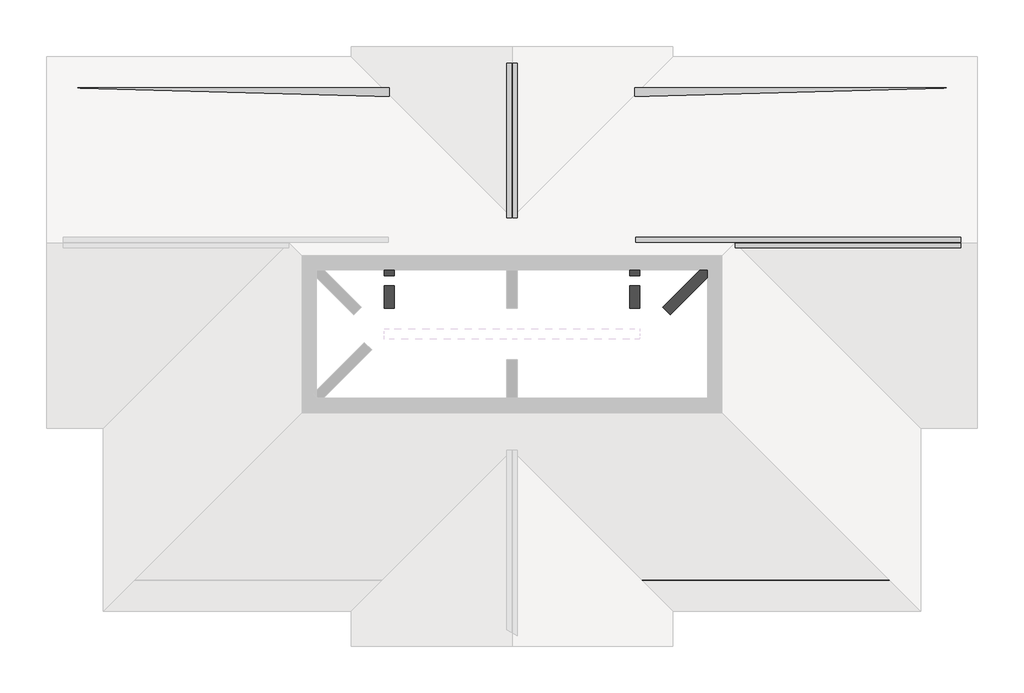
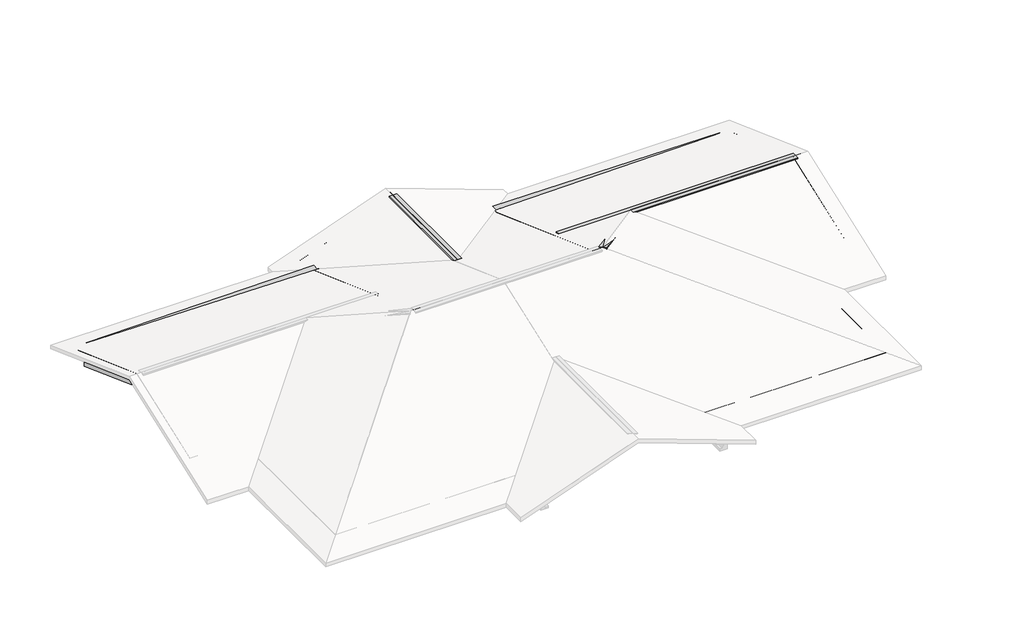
# One storey, part 2 of 2: 17 beams.
"""IFC4 building model written with IfcOpenShell, lengths in millimetres."""

import ifcopenshell
import ifcopenshell.guid

model = None  # the IFC model being written
_history = None  # IfcOwnerHistory: only IFC2X3 demands one
_inside = {}  # id of a spatial element -> (the spatial element, [elements in it])
_under = {}  # id of a project, library or spatial element -> (it, [spatial elements below it])
_declared = {}  # id of a project -> (the project, [libraries it declares])
_typed = {}  # id of a type object -> (the type object, [elements of that type])
_made_of = {}  # id of a material, layer set ... -> (it, [elements and type objects made of it])


def new_model(schema):
    """Start an empty IFC model of exactly this schema.

    Asked for "IFC4X3", IfcOpenShell would pick the latest addendum, in which some entities
    have other attributes; the version numbers below select the first issue.
    IFC2X3 requires an IfcOwnerHistory on every rooted entity: one is made here for all.
    """
    global model, _history
    if schema == "IFC4X3":
        model = ifcopenshell.file(schema_version=(4, 3, 0, 0))
    else:
        model = ifcopenshell.file(schema=schema)
    _inside.clear()
    _under.clear()
    _declared.clear()
    _typed.clear()
    _made_of.clear()
    _history = None
    if model.schema == "IFC2X3":
        org = make("IfcOrganization", Name="unknown")
        user = make(
            "IfcPersonAndOrganization",
            ThePerson=make("IfcPerson", FamilyName="unknown"),
            TheOrganization=org,
        )
        app = make(
            "IfcApplication",
            ApplicationDeveloper=org,
            Version="unknown",
            ApplicationFullName="unknown",
            ApplicationIdentifier="unknown",
        )
        _history = make(
            "IfcOwnerHistory",
            OwningUser=user,
            OwningApplication=app,
            ChangeAction="ADDED",
            CreationDate=0,
        )
    return model


def make(cls, **values):
    """One entity of the class cls with the attributes given. An attribute that is None is left unset."""
    return model.create_entity(
        cls, **{name: value for name, value in values.items() if value is not None}
    )


def rooted(cls, **values):
    """An entity with a GlobalId (a new one), such as an element, a storey or a relation."""
    return make(cls, GlobalId=ifcopenshell.guid.new(), OwnerHistory=_history, **values)


def si_unit(unit_type, name, prefix=None):
    """IfcSIUnit, for example si_unit("LENGTHUNIT", "METRE", prefix="MILLI")."""
    return make("IfcSIUnit", UnitType=unit_type, Prefix=prefix, Name=name)


def assignment(units):
    """IfcUnitAssignment: the units of a project."""
    return None if units is None else make("IfcUnitAssignment", Units=units)


def point(xyz):
    """IfcCartesianPoint."""
    return None if xyz is None else make("IfcCartesianPoint", Coordinates=xyz)


def direction(xyz):
    """IfcDirection."""
    return None if xyz is None else make("IfcDirection", DirectionRatios=xyz)


def frame(location, z_axis=None, x_axis=None):
    """IfcAxis2Placement3D, a coordinate frame: its origin and axes. An axis left out is left unset."""
    return make(
        "IfcAxis2Placement3D",
        Location=point(location),
        Axis=direction(z_axis),
        RefDirection=direction(x_axis),
    )


def origin():
    """The frame at (0, 0, 0) with its axes left unset."""
    return frame((0.0, 0.0, 0.0))


def place(relative_to, where):
    """IfcLocalPlacement: puts the frame where relative to a parent placement (None: the world)."""
    return make(
        "IfcLocalPlacement", PlacementRelTo=relative_to, RelativePlacement=where
    )


def context(
    kind, dimensions, precision=None, world=None, true_north=None, identifier=None
):
    """IfcGeometricRepresentationContext, for example the 3D "Model" context."""
    return make(
        "IfcGeometricRepresentationContext",
        ContextIdentifier=identifier,
        ContextType=kind,
        CoordinateSpaceDimension=dimensions,
        Precision=precision,
        WorldCoordinateSystem=world,
        TrueNorth=true_north,
    )


def project(units=None, contexts=None):
    """IfcProject with its units and contexts."""
    return rooted(
        "IfcProject",
        Name="project",
        RepresentationContexts=contexts,
        UnitsInContext=assignment(units),
    )


def spatial(cls, under=None, at=None, **own):
    """A site, building, storey or space (cls), placed at a placement, below another one or the project."""
    s = rooted(cls, ObjectPlacement=at, **own)
    if under is not None:
        _under.setdefault(under.id(), (under, []))[1].append(s)
    return s


def faces_of(points, faces, orient=None, outer=None):
    """IfcFace entities. A face is a list of loops; a loop is a list of indices into points, from 0.

    orient and outer hold one flag for each loop. By default every Orientation is true, the
    first loop of a face is its IfcFaceOuterBound and the others are IfcFaceBound.
    """
    made = []
    for i, loops in enumerate(faces):
        bounds = []
        for j, loop in enumerate(loops):
            is_outer = j == 0 if outer is None else outer[i][j]
            bounds.append(
                make(
                    "IfcFaceOuterBound" if is_outer else "IfcFaceBound",
                    Bound=make("IfcPolyLoop", Polygon=[points[k] for k in loop]),
                    Orientation=True if orient is None else orient[i][j],
                )
            )
        made.append(make("IfcFace", Bounds=bounds))
    return made


def faceted_brep(points, faces, orient=None, outer=None, voids=None):
    """IfcFacetedBrep: a solid bounded by flat faces; with voids (closed shells), ...WithVoids."""
    shared = [point(p) for p in points]
    hull = make("IfcClosedShell", CfsFaces=faces_of(shared, faces, orient, outer))
    if voids is None:
        return make("IfcFacetedBrep", Outer=hull)
    return make(
        "IfcFacetedBrepWithVoids",
        Outer=hull,
        Voids=[
            make(cls, CfsFaces=faces_of(shared, fs, o, b)) for cls, fs, o, b in voids
        ],
    )


def shape(context_of_items, identifier, shape_type, items):
    """IfcShapeRepresentation: the items that make up one representation, for example the "Body"."""
    return make(
        "IfcShapeRepresentation",
        ContextOfItems=context_of_items,
        RepresentationIdentifier=identifier,
        RepresentationType=shape_type,
        Items=items,
    )


def made_of(thing, what):
    """Note that an element or type object is made of a material, layer set ...; save() writes the relation."""
    if what is not None:
        _made_of.setdefault(what.id(), (what, []))[1].append(thing)
    return thing


def element(
    cls,
    number,
    at=None,
    inside=None,
    cuts=None,
    type_object=None,
    material=None,
    context=None,
    identifier="Body",
    shape_type=None,
    held_by="IfcProductDefinitionShape",
    body=None,
    shapes=None,
    **own,
):
    """One element of the class cls, such as IfcWall. Its Tag is "e" and its number.

    at: its placement. inside: the storey or other place that contains it. cuts: it is an
    opening in that element (IfcRelVoidsElement). A single representation is given by context,
    identifier, shape_type and body (its items); several are given by shapes. held_by: the class
    of the entity that holds the representations. save() writes the other relations.
    """
    e = rooted(cls, Tag="e%d" % number, ObjectPlacement=at, **own)
    if body is not None:
        shapes = [shape(context, identifier, shape_type, body)]
    if shapes is not None:
        e.Representation = make(held_by, Representations=shapes)
    if inside is not None:
        _inside.setdefault(inside.id(), (inside, []))[1].append(e)
    if cuts is not None:
        rooted(
            "IfcRelVoidsElement", RelatingBuildingElement=cuts, RelatedOpeningElement=e
        )
    if type_object is not None:
        _typed.setdefault(type_object.id(), (type_object, []))[1].append(e)
    return made_of(e, material)


def aggregate(whole, parts):
    """IfcRelAggregates: a whole, such as a stair, and the parts it consists of."""
    return rooted("IfcRelAggregates", RelatingObject=whole, RelatedObjects=parts)


def save(model, path):
    """Write the relations noted so far, then the file.

    IfcRelAggregates (storeys below a building ...), IfcRelContainedInSpatialStructure (elements
    in a storey), IfcRelDefinesByType, IfcRelAssociatesMaterial and IfcRelDeclares: one each for
    every whole, place, type object, material and project.
    """
    for whole, parts in _under.values():
        aggregate(whole, parts)
    for where, things in _inside.values():
        rooted(
            "IfcRelContainedInSpatialStructure",
            RelatedElements=things,
            RelatingStructure=where,
        )
    for kind, things in _typed.values():
        rooted("IfcRelDefinesByType", RelatedObjects=things, RelatingType=kind)
    for what, things in _made_of.values():
        rooted("IfcRelAssociatesMaterial", RelatedObjects=things, RelatingMaterial=what)
    for by, libraries in _declared.values():
        rooted("IfcRelDeclares", RelatingContext=by, RelatedDefinitions=libraries)
    model.write(path)


model = new_model("IFC4")

# Units and contexts
model_context = context("Model", 3, world=origin())
ifc_project = project(units=[si_unit("LENGTHUNIT", "METRE", prefix="MILLI")], contexts=[model_context])

# Site, building, storey
site = spatial("IfcSite", under=ifc_project)
building = spatial("IfcBuilding", under=site)
storey = spatial("IfcBuildingStorey", under=building, Name="屋顶", Elevation=7000.0)

# Beams
placement = place(None, origin())
element("IfcBeam", 1, ObjectType="混凝土 - 矩形梁 : 200X400", at=placement, inside=storey, context=model_context, shape_type="Brep", body=[
    faceted_brep([(-13444.5197818, -153.9538269, 8110.7726853), (-13244.5197818, -153.9538269, 8110.7726853), (-13244.5197818, -53.9538269, 8074.3756619), (-13244.5197818, 2538.4266131, 7130.8263459), (-13444.5197818, 2538.4266131, 7130.8263459), (-13444.5197818, -273.6608771, 7781.8802681), (-13444.5197818, 2246.0461731, 7130.8263459), (-13444.5197818, 2246.0461731, 6864.7819027), (-13444.5197818, -153.9538269, 7738.310465), (-13244.5197818, -273.6608771, 7781.8802681), (-13244.5197818, 2246.0461731, 6864.7819027), (-13244.5197818, -153.9538269, 7738.310465), (-13244.5197818, 2246.0461731, 7130.8263459)], [[[0, 1, 2, 3, 4]], [[5, 0, 4, 6, 7, 8]], [[9, 5, 8, 7, 10, 11]], [[1, 9, 11, 10, 12, 3, 2]], [[6, 12, 10, 7]], [[12, 6, 4, 3]], [[1, 0, 5, 9]]]),
])
element("IfcBeam", 2, ObjectType="混凝土 - 矩形梁 : 200X400", at=placement, inside=storey, context=model_context, shape_type="Brep", body=[
    faceted_brep([(-6904.5197818, -1923.9538269, 8755.0), (-7104.5197818, -1923.9538269, 8755.0), (-7104.5197818, -2023.9538269, 8480.2522581), (-7104.5197818, -2043.6608771, 8426.1075827), (-6904.5197818, -2043.6608771, 8426.1075827), (-6904.5197818, -2023.9538269, 8480.2522581), (-6904.5197818, -1823.9538269, 8718.6029766), (-6904.5197818, 2507.0984092, 7142.2288796), (-7004.5197818, 2798.3249579, 7036.2310844), (-7020.9060678, 2846.0461731, 7018.8619826), (-7038.8922165, 2898.4266131, 6999.7970615), (-7104.5197818, 2898.4266131, 6999.7970615), (-7104.5197818, 2846.0461731, 7018.8619826), (-7104.5197818, 2676.5602627, 7080.549809), (-7104.5197818, -53.9538269, 8074.3756619), (-7024.5197818, -53.9538269, 8074.3756619), (-7024.5197818, -154.5783688, 8111.0), (-7104.5197818, -154.5783688, 8111.0), (-7104.5197818, -1823.9538269, 8718.6029766), (-7104.5197818, -1852.5324707, 8729.0047522), (-7104.5197818, -1863.6709351, 8733.0588217), (-7104.5197818, -253.9538269, 8111.0), (-7104.5197818, -253.9538269, 7774.7074884), (-7104.5197818, -793.9538269, 7971.2514149), (-7104.5197818, -793.9538269, 8310.0899049), (-7104.5197818, -993.9538269, 8310.0899049), (-7104.5197818, -993.9538269, 8044.0454618), (-7104.5197818, -1893.024185, 8371.2803106), (-7104.5197818, -1985.6682702, 8405.0), (-7104.5197818, -2023.9538269, 8418.9348031), (-6904.5197818, -993.9538269, 8044.0454618), (-6904.5197818, -1985.6682702, 8405.0), (-6904.5197818, -2023.9538269, 8418.9348031), (-6904.5197818, -993.9538269, 8310.0899049), (-6904.5197818, -793.9538269, 8310.0899049), (-6904.5197818, -793.9538269, 8237.295858), (-6904.5197818, -793.9538269, 7971.2514149), (-6904.5197818, 2387.3913591, 6813.3364623), (-6944.9082416, 2505.0132767, 6770.5255854), (-6979.6004415, 2606.0461731, 6733.7526184), (-6951.1771755, 2606.0461731, 6991.3061103), (-6950.2401252, 2606.0461731, 6999.7970615), (-7004.5197818, 2785.064058, 6999.7970615), (-7023.0100475, 2846.0461731, 6999.7970615), (-7104.5197818, 2606.0461731, 6733.7526184), (-7104.5197818, 2606.0461731, 6999.7970615), (-7045.941138, 2606.0461731, 6733.7526184), (-7104.5197818, 2646.0461731, 6999.7970615), (-7104.5197818, 2846.0461731, 6999.7970615), (-7024.5197818, -253.9538269, 7774.7074884), (-7024.5197818, -216.292812, 7761.0), (-7104.5197818, -216.292812, 7761.0), (-7024.5197818, -53.9538269, 7761.0), (-7024.5197818, -253.9538269, 8111.0), (-7104.5197818, -53.9538269, 7761.0)], [[[0, 1, 2, 3, 4, 5]], [[1, 0, 6, 7, 8, 9, 10, 11, 12, 13, 14, 15, 16, 17, 18, 19, 20]], [[3, 2, 1, 20, 19, 18, 17, 21, 22, 23, 24, 25, 26, 27, 28, 29]], [[4, 3, 29, 28, 27, 26, 30, 31, 32]], [[0, 5, 4, 32, 31, 30, 33, 34, 35, 36, 37, 7, 6]], [[7, 37, 38, 39, 40, 41, 42, 43, 10, 9, 8]], [[44, 45, 41, 40, 39, 46]], [[11, 10, 43, 42, 41, 45, 47, 48]], [[34, 24, 23, 36, 35]], [[25, 33, 30, 26]], [[24, 34, 33, 25]], [[44, 46, 39, 38, 37, 36, 23, 22, 49, 50, 51]], [[15, 52, 50, 49, 53, 16]], [[16, 53, 21, 17]], [[53, 49, 22, 21]], [[50, 52, 54, 51]], [[52, 15, 14, 54]], [[45, 44, 51, 54, 14, 13, 12, 11, 48, 47]]]),
])
element("IfcBeam", 3, ObjectType="混凝土 - 矩形梁 : 200X400", at=placement, inside=storey, context=model_context, shape_type="Brep", body=[
    faceted_brep([(-7142.8960055, 3246.0461731, 7019.4529888), (-4624.5197818, 3246.0461731, 7936.0669729), (-4624.5197818, 3446.0461731, 7936.0669729), (-7142.8960055, 3446.0461731, 7019.4529888), (-4504.8127316, 3446.0461731, 7607.1745556), (-4624.5197818, 3446.0461731, 7563.6047525), (-6904.5197818, 3446.0461731, 6733.7526184), (-6904.5197818, 3446.0461731, 6999.7970615), (-7142.8960055, 3446.0461731, 6999.7970615), (-4504.8127316, 3246.0461731, 7607.1745556), (-4624.5197818, 3246.0461731, 7563.6047525), (-6904.5197818, 3246.0461731, 6733.7526184), (-7142.8960055, 3246.0461731, 6999.7970615), (-6904.5197818, 3246.0461731, 6999.7970615)], [[[0, 1, 2, 3]], [[3, 2, 4, 5, 6, 7, 8]], [[4, 9, 10, 11, 6, 5]], [[1, 0, 12, 13, 11, 10, 9]], [[13, 7, 6, 11]], [[7, 13, 12, 8]], [[0, 3, 8, 12]], [[1, 9, 4, 2]]]),
])
element("IfcBeam", 4, ObjectType="混凝土 - 矩形梁 : 200X400", at=placement, inside=storey, context=model_context, shape_type="Brep", body=[
    faceted_brep([(-4624.5197818, 467.4675293, 7803.9126136), (-4724.5197818, 567.4675293, 7767.5155901), (-6904.5197818, 2747.4675293, 6974.0604794), (-6904.5197818, 2606.0461731, 6999.7970615), (-6951.1771755, 2606.0461731, 6991.3061103), (-6904.5197818, 2464.6248168, 7025.5336436), (-4723.4675456, 283.5725807, 7819.3717369), (-4624.5197818, 184.6248168, 7855.3857777), (-4624.5197818, 326.0461731, 7829.6491957), (-7045.941138, 2606.0461731, 6612.6548171), (-4624.5197818, 184.6248168, 7493.9801154), (-6944.9082416, 2505.0132767, 6770.5255854), (-7045.941138, 2606.0461731, 6733.7526184), (-6904.5197818, 2606.0461731, 6638.3913991), (-6904.5197818, 2747.4675293, 6612.6548171), (-4624.5197818, 467.4675293, 7442.5069512), (-4624.5197818, 467.4675293, 7586.0), (-6979.6004415, 2606.0461731, 6733.7526184)], [[[0, 1, 2, 3, 4, 5, 6, 7, 8]], [[9, 10, 7, 6, 5, 11, 12]], [[10, 9, 13, 14, 15]], [[2, 1, 0, 16, 15, 14]], [[13, 3, 2, 14]], [[3, 13, 9, 12, 17, 4]], [[11, 17, 12]], [[17, 11, 5, 4]], [[0, 8, 7, 10, 15, 16]]]),
    faceted_brep([(-7156.7711082, 2716.8761433, 6572.3160068), (-7156.7711082, 2716.8761433, 6730.0156304), (-7156.7711082, 2716.8761433, 6933.7216692), (-7144.5197818, 2729.1274697, 6933.7216692), (-7144.5197818, 2729.1274697, 6730.1368612), (-7144.5197818, 2729.1274697, 6572.3160068), (-7144.5197818, 2704.6248168, 6938.1807874), (-7144.5197818, 2704.6248168, 6730.1368612), (-7144.5197818, 2704.6248168, 6576.775125)], [[[0, 1, 2, 3, 4, 5]], [[3, 6, 7, 8, 5, 4]], [[3, 2, 6]], [[2, 1, 0, 8, 7, 6]], [[8, 0, 5]]]),
])
element("IfcBeam", 5, ObjectType="混凝土 - 矩形梁 : 200X400", at=placement, inside=storey, context=model_context, shape_type="Brep", body=[
    faceted_brep([(-4524.5197818, 326.0461731, 7936.0), (-4724.5197818, 326.0461731, 7936.0), (-4724.5197818, 326.0461731, 7811.4506839), (-4624.5197818, 326.0461731, 7829.6491957), (-4624.5197818, 326.0461731, 7586.0), (-4524.5197818, 326.0461731, 7586.0), (-4524.5197818, 326.0461731, 7811.4506839), (-4524.5197818, 3326.0461731, 7936.0), (-4524.5197818, 3326.0461731, 7586.0), (-4724.5197818, 3326.0461731, 7586.0), (-4724.5197818, 3326.0461731, 7936.0), (-4724.5197818, 567.4675293, 7586.0), (-4724.5197818, 567.4675293, 7767.5155901), (-4524.5197818, 567.4675293, 7586.0), (-4624.5197818, 467.4675293, 7586.0), (-4624.5197818, 467.4675293, 7803.9126136)], [[[0, 1, 2, 3, 4, 5, 6]], [[7, 8, 9, 10]], [[1, 0, 7, 10]], [[10, 9, 11, 12, 2, 1]], [[9, 8, 13, 5, 4, 14, 11]], [[0, 6, 5, 13, 8, 7]], [[12, 15, 3, 2]], [[15, 12, 11, 14]], [[3, 15, 14, 4]]]),
])
element("IfcBeam", 6, ObjectType="混凝土 - 矩形梁 : 200X400", at=placement, inside=storey, context=model_context, shape_type="Brep", body=[
    faceted_brep([(-4624.5197818, 184.6248168, 7855.3857777), (-4525.5720179, 283.5725807, 7819.3717369), (-2344.5197818, 2464.6248168, 7025.5336436), (-2203.0984255, 2606.0461731, 6974.0604794), (-2297.8623881, 2606.0461731, 6991.3061103), (-2344.5197818, 2606.0461731, 6999.7970615), (-2344.5197818, 2747.4675293, 6974.0604794), (-4524.5197818, 567.4675293, 7767.5155901), (-4524.5197818, 326.0461731, 7811.4506839), (-4624.5197818, 326.0461731, 7829.6491957), (-4624.5197818, 184.6248168, 7493.9801154), (-2203.0984255, 2606.0461731, 6612.6548171), (-2203.0984255, 2606.0461731, 6733.7526184), (-4624.5197818, 467.4675293, 7442.5069512), (-2344.5197818, 2747.4675293, 6612.6548171), (-2344.5197818, 2606.0461731, 6638.3913991), (-4624.5197818, 467.4675293, 7586.0), (-4524.5197818, 567.4675293, 7586.0), (-4624.5197818, 326.0461731, 7586.0), (-4524.5197818, 326.0461731, 7586.0)], [[[0, 1, 2, 3, 4, 5, 6, 7, 8, 9]], [[0, 10, 11, 12, 3, 2, 1]], [[10, 13, 14, 15, 11]], [[14, 13, 16, 17, 7, 6]], [[13, 10, 0, 9, 18, 16]], [[5, 15, 14, 6]], [[15, 5, 4, 3, 12, 11]], [[8, 19, 18, 9]], [[18, 19, 17, 16]], [[19, 8, 7, 17]]]),
    faceted_brep([(-2092.2684553, 2716.8761433, 6933.7216692), (-2092.2684553, 2716.8761433, 6730.0156304), (-2092.2684553, 2716.8761433, 6572.3160068), (-2104.5197818, 2729.1274697, 6572.3160068), (-2104.5197818, 2729.1274697, 6730.1368612), (-2104.5197818, 2729.1274697, 6933.7216692), (-2104.5197818, 2704.6248168, 6938.1807874), (-2104.5197818, 2704.6248168, 6576.775125), (-2104.5197818, 2704.6248168, 6730.1368612)], [[[0, 1, 2, 3, 4, 5]], [[6, 5, 4, 3, 7, 8]], [[0, 5, 6]], [[2, 1, 0, 6, 8, 7]], [[3, 2, 7]]]),
])
element("IfcBeam", 7, ObjectType="混凝土 - 矩形梁 : 200X400", at=placement, inside=storey, context=model_context, shape_type="Brep", body=[
    faceted_brep([(3995.4802182, -153.9538269, 8110.7726853), (4195.4802182, -153.9538269, 8110.7726853), (4195.4802182, 2538.4266131, 7130.8263459), (3995.4802182, 2538.4266131, 7130.8263459), (3995.4802182, -53.9538269, 8074.3756619), (4195.4802182, -273.6608771, 7781.8802681), (4195.4802182, -153.9538269, 7738.310465), (4195.4802182, 2246.0461731, 6864.7819027), (4195.4802182, 2246.0461731, 7130.8263459), (3995.4802182, -273.6608771, 7781.8802681), (3995.4802182, -153.9538269, 7738.310465), (3995.4802182, 2246.0461731, 6864.7819027), (3995.4802182, 2246.0461731, 7130.8263459)], [[[0, 1, 2, 3, 4]], [[1, 5, 6, 7, 8, 2]], [[5, 9, 10, 11, 7, 6]], [[9, 0, 4, 3, 12, 11, 10]], [[0, 9, 5, 1]], [[12, 8, 7, 11]], [[8, 12, 3, 2]]]),
])
element("IfcBeam", 8, ObjectType="混凝土 - 矩形梁 : 200X400", at=placement, inside=storey, context=model_context, shape_type="Brep", body=[
    faceted_brep([(4195.4802182, -2604.7602856, 7218.7520845), (3995.4802182, -2604.7602856, 7218.7520845), (3995.4802182, -2583.3558804, 7159.9439646), (4195.4802182, -2583.3558804, 7159.9439646), (4195.4802182, -153.9538269, 8110.7726853), (3995.4802182, -153.9538269, 8110.7726853), (3995.4802182, -253.9538269, 8074.3756619), (4195.4802182, -2473.9538269, 7159.9439646), (4195.4802182, -2473.9538269, 6893.8995215), (4195.4802182, -153.9538269, 7738.310465), (4195.4802182, -273.6608771, 7781.8802681), (3995.4802182, -153.9538269, 7738.310465), (3995.4802182, -2473.9538269, 6893.8995215), (3995.4802182, -273.6608771, 7781.8802681), (3995.4802182, -2473.9538269, 7159.9439646)], [[[0, 1, 2, 3]], [[1, 0, 4, 5, 6]], [[4, 0, 3, 7, 8, 9, 10]], [[11, 9, 8, 12]], [[1, 6, 5, 13, 11, 12, 14, 2]], [[10, 9, 11, 13]], [[10, 13, 5, 4]], [[7, 14, 12, 8]], [[14, 7, 3, 2]]]),
])
element("IfcBeam", 9, ObjectType="混凝土 - 矩形梁 : 200X400", at=placement, inside=storey, context=model_context, shape_type="Brep", body=[
    faceted_brep([(-2224.5197818, -253.9538269, 8111.0), (-2224.5197818, -154.5783688, 8111.0), (-2224.5197818, -53.9538269, 8111.0), (-2224.5197818, -53.9538269, 8074.3756619), (-2224.5197818, -53.9538269, 7761.0), (-2224.5197818, -216.292812, 7761.0), (-2224.5197818, -253.9538269, 7761.0), (-2224.5197818, -253.9538269, 7774.7074884), (-2144.5197818, -253.9538269, 8111.0), (4075.4802182, -253.9538269, 8111.0), (4075.4802182, -53.9538269, 8111.0), (-545.941138, -253.9538269, 7761.0), (-347.0095507, -253.9538269, 7761.0), (-345.941138, -253.9538269, 7761.0), (-63.0984255, -253.9538269, 7761.0), (3995.4802182, -253.9538269, 7761.0), (3995.4802182, -253.9538269, 8074.3756619), (4075.4802182, -253.9538269, 8074.3756619), (-2144.5197818, -53.9538269, 7761.0), (-293.0937247, -53.9538269, 7761.0), (-263.0984255, -53.9538269, 7761.0), (3995.4802182, -53.9538269, 7761.0), (4075.4802182, -53.9538269, 8074.3756619), (3995.4802182, -53.9538269, 8074.3756619), (3995.4802182, -153.9538269, 8110.7726853), (4075.4802182, -153.9538269, 8110.7726853)], [[[0, 1, 2, 3, 4, 5, 6, 7]], [[2, 1, 0, 8, 9, 10]], [[0, 7, 6, 11, 12, 13, 14, 15, 16, 17, 9, 8]], [[6, 5, 4, 18, 19, 20, 21, 15, 14, 13, 12, 11]], [[4, 3, 2, 10, 22, 23, 21, 20, 19, 18]], [[24, 23, 22, 25]], [[23, 24, 16, 15, 21]], [[10, 9, 17, 25, 22]], [[16, 24, 25, 17]]]),
])
element("IfcBeam", 10, ObjectType="混凝土 - 矩形梁 : 200X400", at=placement, inside=storey, context=model_context, shape_type="Brep", body=[
    faceted_brep([(-2144.5197818, -1923.9538269, 8755.0), (-2344.5197818, -1923.9538269, 8755.0), (-2344.5197818, -2023.9538269, 8480.2522581), (-2344.5197818, -2043.6608771, 8426.1075827), (-2144.5197818, -2043.6608771, 8426.1075827), (-2144.5197818, -2023.9538269, 8480.2522581), (-2144.5197818, -1863.6709351, 8733.0588217), (-2144.5197818, -1852.5324707, 8729.0047522), (-2144.5197818, -1823.9538269, 8718.6029766), (-2144.5197818, -154.5783688, 8111.0), (-2224.5197818, -154.5783688, 8111.0), (-2224.5197818, -53.9538269, 8074.3756619), (-2144.5197818, -53.9538269, 8074.3756619), (-2144.5197818, 2676.5602627, 7080.549809), (-2144.5197818, 2846.0461731, 7018.8619826), (-2144.5197818, 2898.4266131, 6999.7970615), (-2210.1473471, 2898.4266131, 6999.7970615), (-2228.1334958, 2846.0461731, 7018.8619826), (-2244.777399, 2797.574708, 7036.504153), (-2344.5197818, 2507.0984092, 7142.2288796), (-2344.5197818, -1823.9538269, 8718.6029766), (-2144.5197818, -2023.9538269, 8418.9348031), (-2144.5197818, -1985.6682702, 8405.0), (-2144.5197818, -1893.024185, 8371.2803106), (-2144.5197818, -993.9538269, 8044.0454618), (-2144.5197818, -993.9538269, 8310.0899049), (-2144.5197818, -793.9538269, 8310.0899049), (-2144.5197818, -793.9538269, 7971.2514149), (-2144.5197818, -253.9538269, 7774.7074884), (-2144.5197818, -253.9538269, 8111.0), (-2344.5197818, -2023.9538269, 8418.9348031), (-2344.5197818, -1985.6682702, 8405.0), (-2344.5197818, -993.9538269, 8044.0454618), (-2344.5197818, 2464.6248168, 7025.5336436), (-2344.5197818, 2387.3913591, 6813.3364623), (-2344.5197818, -793.9538269, 7971.2514149), (-2344.5197818, -793.9538269, 8237.295858), (-2344.5197818, -793.9538269, 8310.0899049), (-2344.5197818, -993.9538269, 8310.0899049), (-2224.5197818, -53.9538269, 7761.0), (-2224.5197818, -253.9538269, 8111.0), (-2224.5197818, -253.9538269, 7774.7074884), (-2224.5197818, -216.292812, 7761.0), (-2144.5197818, -216.292812, 7761.0), (-2144.5197818, -53.9538269, 7761.0), (-2144.5197818, 2606.0461731, 6733.7526184), (-2144.5197818, 2606.0461731, 6999.7970615), (-2144.5197818, 2646.0461731, 6999.7970615), (-2144.5197818, 2846.0461731, 6999.7970615), (-2304.1313219, 2505.0132767, 6770.5255854), (-2298.7994383, 2606.0461731, 6999.7970615), (-2203.0984255, 2606.0461731, 6733.7526184), (-2203.0984255, 2606.0461731, 6974.0604794), (-2297.8623881, 2606.0461731, 6991.3061103), (-2245.1406274, 2783.0164683, 6999.7970615), (-2226.029516, 2846.0461731, 6999.7970615)], [[[0, 1, 2, 3, 4, 5]], [[1, 0, 6, 7, 8, 9, 10, 11, 12, 13, 14, 15, 16, 17, 18, 19, 20]], [[0, 5, 4, 21, 22, 23, 24, 25, 26, 27, 28, 29, 9, 8, 7, 6]], [[4, 3, 30, 31, 32, 24, 23, 22, 21]], [[3, 2, 1, 20, 19, 33, 34, 35, 36, 37, 38, 32, 31, 30]], [[39, 11, 10, 40, 41, 42]], [[40, 10, 9, 29]], [[41, 40, 29, 28]], [[39, 42, 43, 44]], [[11, 39, 44, 12]], [[44, 43, 45, 46, 47, 48, 15, 14, 13, 12]], [[49, 34, 33]], [[50, 46, 45, 51, 52, 53]], [[46, 50, 54, 55, 16, 15, 48, 47]], [[52, 33, 53]], [[33, 52, 51, 49]], [[19, 18, 17, 16, 55, 54, 50, 53, 33]], [[26, 37, 36, 35, 27]], [[38, 25, 24, 32]], [[25, 38, 37, 26]], [[42, 41, 28, 27, 35, 34, 49, 51, 45, 43]]]),
])
element("IfcBeam", 11, ObjectType="混凝土 - 矩形梁 : 200X400", at=placement, inside=storey, context=model_context, shape_type="Brep", body=[
    faceted_brep([(-2144.5197818, -1996.6908531, 8419.8572326), (-2075.1776167, -2066.0330181, 8419.8572326), (-2074.5197818, -2065.3751832, 8422.9550386), (-2144.5197818, -1995.3751832, 8422.9550386), (-2144.5197818, -1995.3751832, 8419.5778433), (-2074.5197818, -2065.3751832, 8419.5778433)], [[[0, 1, 2, 3]], [[0, 3, 4]], [[3, 2, 5, 4]], [[2, 1, 5]], [[1, 0, 4, 5]]]),
    faceted_brep([(-323.1560401, -314.0114415, 7675.7557516), (-464.5773964, -172.5900853, 7675.7557516), (-446.4753443, -154.4880333, 7761.0), (-347.0095507, -253.9538269, 7761.0), (-345.941138, -253.9538269, 7763.5156274), (-263.0984255, -253.9538269, 7958.5726504), (-304.5197818, -295.3751832, 7763.5156274), (-2145.4153985, -1853.4280874, 8755.0673122), (-2003.9940423, -1994.8494437, 8755.0673122), (-263.0984255, -253.9538269, 8015.6911402), (-545.941138, -253.9538269, 8075.7542364), (-263.0984255, -253.9538269, 7978.618326), (-2032.0719903, -2022.9273917, 8622.8456407), (-1933.0984255, -1923.9538269, 8622.8456407), (-1933.0984255, -1923.9538269, 8359.5147471), (-2056.4150821, -1800.6371704, 8359.5147471), (-2144.5197818, -1903.5020917, 8400.0681226), (-2144.5197818, -1852.5324707, 8389.2444629), (-2144.5197818, -1852.5324707, 8729.0047522), (-2150.4885822, -1858.5012711, 8731.1772179), (-545.941138, -253.9538269, 7761.0), (-2144.5197818, -1863.6709351, 8733.0588217), (-2003.8091037, -1853.2431488, 8648.5822228), (-2097.3173736, -1946.7514188, 8648.5822228), (-2144.5197818, -1950.3866983, 8528.8825206)], [[[0, 1, 2, 3, 4, 5, 6]], [[7, 8, 9, 10]], [[0, 6, 5, 11, 9, 8, 12, 13, 14]], [[1, 0, 14, 15, 16, 17]], [[2, 1, 17, 18, 19, 7, 10, 20]], [[3, 20, 10, 9, 11, 5, 4]], [[20, 3, 2]], [[18, 21, 19]], [[22, 23, 24, 16, 15]], [[23, 22, 13, 12]], [[22, 15, 14, 13]], [[8, 7, 19, 21, 24, 23, 12]], [[21, 18, 17, 16, 24]]]),
])
element("IfcBeam", 12, ObjectType="混凝土 - 矩形梁 : 200X400", at=placement, inside=storey, context=model_context, shape_type="Brep", body=[
    faceted_brep([(-295.49374, -21.5585125, 7665.4006173), (-436.9150962, -162.9798687, 7665.4006173), (-419.5174313, -180.3775336, 7761.0), (-293.0937247, -53.9538269, 7761.0), (-263.0984255, -53.9538269, 7843.4114071), (2690.1953635, -3007.2476159, 6578.6986548), (2751.8799998, -3068.9322522, 6917.6529457), (2695.4802182, -3125.3320338, 6917.6529457), (2610.4586436, -3210.3536085, 6917.6529457), (2565.2075081, -3165.102473, 6669.0), (2548.7740072, -3148.6689722, 6578.6986548), (2695.4802182, -3012.5324707, 6938.1807874), (2495.4802182, -2812.5324707, 7010.9748342), (-63.0984255, -253.9538269, 7942.2213026), (-263.0984255, -253.9538269, 7978.618326), (-304.5197818, -295.3751832, 7978.618326), (2495.4802182, -3095.3751832, 6959.5016701), (-304.5197818, -295.3751832, 7763.5156274), (-345.941138, -253.9538269, 7763.5156274), (-345.941138, -253.9538269, 7761.0), (-263.0984255, -53.9538269, 7761.0), (-63.0984255, -253.9538269, 7761.0), (-263.0984255, -253.9538269, 7958.5726504)], [[[0, 1, 2, 3, 4]], [[5, 6, 7, 8, 9, 10]], [[8, 7, 6, 11, 12, 13, 14, 15, 16]], [[10, 9, 8, 16, 15, 17, 18, 19, 2, 1]], [[1, 0, 5, 10]], [[6, 5, 0, 4, 20, 21, 13, 12, 11]], [[21, 19, 18, 22, 14, 13]], [[19, 21, 20, 3, 2]], [[3, 20, 4]], [[17, 22, 18]], [[22, 17, 15, 14]]]),
])
element("IfcBeam", 13, ObjectType="混凝土 - 矩形梁 : 200X400", at=placement, inside=storey, context=model_context, shape_type="Brep", body=[
    faceted_brep([(2495.4802182, -2573.9538269, 7000.0), (2495.4802182, -2773.9538269, 7000.0), (2695.4802182, -2773.9538269, 7000.0), (3955.4802182, -2773.9538269, 7000.0), (3955.4802182, -2573.9538269, 7000.0), (2695.4802182, -2573.9538269, 7000.0), (2495.4802182, -2773.9538269, 6669.0), (2495.4802182, -2773.9538269, 6650.0), (3955.4802182, -2773.9538269, 6650.0), (2495.4802182, -2573.9538269, 6650.0), (3955.4802182, -2573.9538269, 6650.0)], [[[0, 1, 2, 3, 4, 5]], [[1, 6, 7, 8, 3, 2]], [[7, 9, 10, 8]], [[9, 0, 5, 4, 10]], [[1, 0, 9, 7, 6]], [[4, 3, 8, 10]]]),
])
element("IfcBeam", 14, ObjectType="混凝土 - 矩形梁 : 200X400", at=placement, inside=storey, context=model_context, shape_type="Brep", body=[
    faceted_brep([(2495.4802182, -6493.9538269, 7019.0), (2695.4802182, -6693.9538269, 7019.0), (2695.4802182, -2573.9538269, 7019.0), (2495.4802182, -2573.9538269, 7019.0), (2495.4802182, -2573.9538269, 7000.0), (2495.4802182, -2773.9538269, 7000.0), (2495.4802182, -2773.9538269, 6669.0), (2495.4802182, -2812.5324707, 6669.0), (2495.4802182, -2812.5324707, 7010.9748342), (2495.4802182, -3095.3751832, 6959.5016701), (2495.4802182, -3095.3751832, 6669.0), (2495.4802182, -6352.5324707, 6669.0), (2495.4802182, -6352.5324707, 7010.9748342), (2495.4802182, -6453.9538269, 6992.5176568), (2495.4802182, -6453.9538269, 6999.7970615), (2495.4802182, -6493.9538269, 6999.7970615), (2695.4802182, -2773.9538269, 6669.0), (2695.4802182, -3012.5324707, 6669.0), (2695.4802182, -2773.9538269, 7000.0), (2695.4802182, -2573.9538269, 7000.0), (2695.4802182, -6693.9538269, 6999.7970615), (2695.4802182, -6453.9538269, 6999.7970615), (2695.4802182, -6453.9538269, 6669.0), (2695.4802182, -3034.8297629, 6669.0), (2695.4802182, -3125.3320338, 6917.6529457), (2695.4802182, -3012.5324707, 6938.1807874), (2596.9015745, -6453.9538269, 6974.0604794), (2596.9015745, -6453.9538269, 6669.0), (2565.2075081, -3165.102473, 6669.0), (2610.4586436, -3210.3536085, 6917.6529457)], [[[0, 1, 2, 3]], [[0, 3, 4, 5, 6, 7, 8, 9, 10, 11, 12, 13, 14, 15]], [[6, 16, 17, 7]], [[18, 19, 2, 1, 20, 21, 22, 23, 24, 25, 17, 16]], [[19, 18, 5, 4]], [[16, 6, 5, 18]], [[1, 0, 15, 20]], [[3, 2, 19, 4]], [[21, 14, 13, 26, 27, 22]], [[14, 21, 20, 15]], [[12, 26, 13]], [[26, 12, 11, 27]], [[28, 29, 24, 23]], [[24, 29, 9, 8, 25]], [[29, 28, 10, 9]], [[25, 8, 7, 17]], [[22, 27, 11, 10, 28, 23]]]),
])
element("IfcBeam", 15, ObjectType="混凝土 - 矩形梁 : 200X400", at=placement, inside=storey, context=model_context, shape_type="Brep", body=[
    faceted_brep([(2695.4802182, -6693.9538269, 7019.0), (2495.4802182, -6493.9538269, 7019.0), (-2104.5197818, -6493.9538269, 7019.0), (-2104.5197818, -6693.9538269, 7019.0), (2695.4802182, -6693.9538269, 6999.7970615), (-2104.5197818, -6693.9538269, 6669.0), (2295.4802182, -6693.9538269, 6669.0), (2295.4802182, -6693.9538269, 6999.7970615), (2295.4802182, -6493.9538269, 6669.0), (-2104.5197818, -6493.9538269, 6669.0), (2495.4802182, -6493.9538269, 6999.7970615), (2415.4802182, -6493.9538269, 6999.7970615), (2354.058862, -6493.9538269, 7010.9748342), (2354.058862, -6493.9538269, 6999.7970615), (2295.4802182, -6493.9538269, 6999.7970615), (2384.7695401, -6524.664505, 6999.7970615)], [[[0, 1, 2, 3]], [[4, 0, 3, 5, 6, 7]], [[8, 6, 5, 9]], [[1, 10, 11, 12, 13, 14, 8, 9, 2]], [[1, 0, 4, 10]], [[14, 7, 6, 8]], [[7, 14, 13, 15, 11, 10, 4]], [[15, 12, 11]], [[12, 15, 13]], [[3, 2, 9, 5]]]),
])
element("IfcBeam", 16, ObjectType="混凝土 - 矩形梁 : 200X400", at=placement, inside=storey, context=model_context, shape_type="Brep", body=[
    faceted_brep([(-7004.5197818, 2846.0461731, 7081.5393409), (-13044.5197818, 2846.0461731, 7021.7716193), (-13044.5197818, 2646.0461731, 7021.7716193), (-7104.5197818, 2646.0461731, 7080.549809), (-7104.5197818, 2676.5602627, 7080.549809), (-7004.5197818, 2673.8415464, 7081.5393409), (-13044.5197818, 2646.0461731, 6671.7544842), (-7144.5197818, 2646.0461731, 6730.1368612), (-7144.5197818, 2646.0461731, 6999.7970615), (-7104.5197818, 2646.0461731, 6999.7970615), (-7004.5197818, 2846.0461731, 6999.7970615), (-7023.0100475, 2846.0461731, 6999.7970615), (-7020.9060678, 2846.0461731, 7018.8619826), (-7104.5197818, 2846.0461731, 7018.8619826), (-7104.5197818, 2846.0461731, 6999.7970615), (-7144.5197818, 2846.0461731, 6999.7970615), (-7144.5197818, 2846.0461731, 6730.1368612), (-13044.5197818, 2846.0461731, 6671.7544842), (-7004.5197818, 2798.3249579, 7036.2310844), (-7004.5197818, 2785.064058, 6999.7970615), (-7144.5197818, 2729.1274697, 6730.1368612), (-7156.7711082, 2716.8761433, 6730.0156304), (-7144.5197818, 2704.6248168, 6730.1368612), (-7144.5197818, 2704.6248168, 6938.1807874), (-7144.5197818, 2729.1274697, 6933.7216692), (-7156.7711082, 2716.8761433, 6933.7216692)], [[[0, 1, 2, 3, 4, 5]], [[2, 6, 7, 8, 9, 3]], [[1, 0, 10, 11, 12, 13, 14, 15, 16, 17]], [[0, 5, 18, 19, 10]], [[2, 1, 17, 6]], [[12, 18, 5, 4, 13]], [[13, 4, 3, 9, 14]], [[18, 12, 11, 19]], [[6, 17, 16, 20, 21, 22, 7]], [[15, 8, 7, 22, 23, 24, 20, 16]], [[8, 15, 14, 9]], [[11, 10, 19]], [[25, 24, 23]], [[21, 25, 23, 22]], [[24, 25, 21, 20]]]),
])
element("IfcBeam", 17, ObjectType="混凝土 - 矩形梁 : 200X400", at=placement, inside=storey, context=model_context, shape_type="Brep", body=[
    faceted_brep([(-2244.3317799, 2846.0461731, 7081.5374805), (-2245.1406274, 2846.0461731, 6999.7970615), (-2245.1406274, 2783.0164683, 6999.7970615), (-2244.777399, 2797.574708, 7036.504153), (-2244.3317799, 2673.8466577, 7081.5374805), (3795.4802182, 2846.0461731, 7021.7716193), (-2144.5197818, 2676.5602627, 7080.549809), (-2144.5197818, 2646.0461731, 7080.549809), (3795.4802182, 2646.0461731, 7021.7716193), (3795.4802182, 2646.0461731, 6671.7544842), (-2144.5197818, 2646.0461731, 6999.7970615), (-2104.5197818, 2646.0461731, 6999.7970615), (-2104.5197818, 2646.0461731, 6730.1368612), (3795.4802182, 2846.0461731, 6671.7544842), (-2104.5197818, 2704.6248168, 6730.1368612), (-2092.2684553, 2716.8761433, 6730.0156304), (-2104.5197818, 2729.1274697, 6730.1368612), (-2104.5197818, 2846.0461731, 6730.1368612), (-2104.5197818, 2846.0461731, 6999.7970615), (-2144.5197818, 2846.0461731, 6999.7970615), (-2144.5197818, 2846.0461731, 7018.8619826), (-2228.1334958, 2846.0461731, 7018.8619826), (-2226.029516, 2846.0461731, 6999.7970615), (-2104.5197818, 2729.1274697, 6933.7216692), (-2104.5197818, 2704.6248168, 6938.1807874), (-2092.2684553, 2716.8761433, 6933.7216692)], [[[0, 1, 2, 3, 4]], [[5, 0, 4, 6, 7, 8]], [[9, 8, 7, 10, 11, 12]], [[13, 9, 12, 14, 15, 16, 17]], [[0, 5, 13, 17, 18, 19, 20, 21, 22, 1]], [[5, 8, 9, 13]], [[11, 18, 17, 16, 23, 24, 14, 12]], [[18, 11, 10, 19]], [[23, 25, 24]], [[24, 25, 15, 14]], [[25, 23, 16, 15]], [[3, 21, 20, 6, 4]], [[6, 20, 19, 10, 7]], [[21, 3, 2, 22]], [[2, 1, 22]]]),
])

save(model, "model.ifc")
